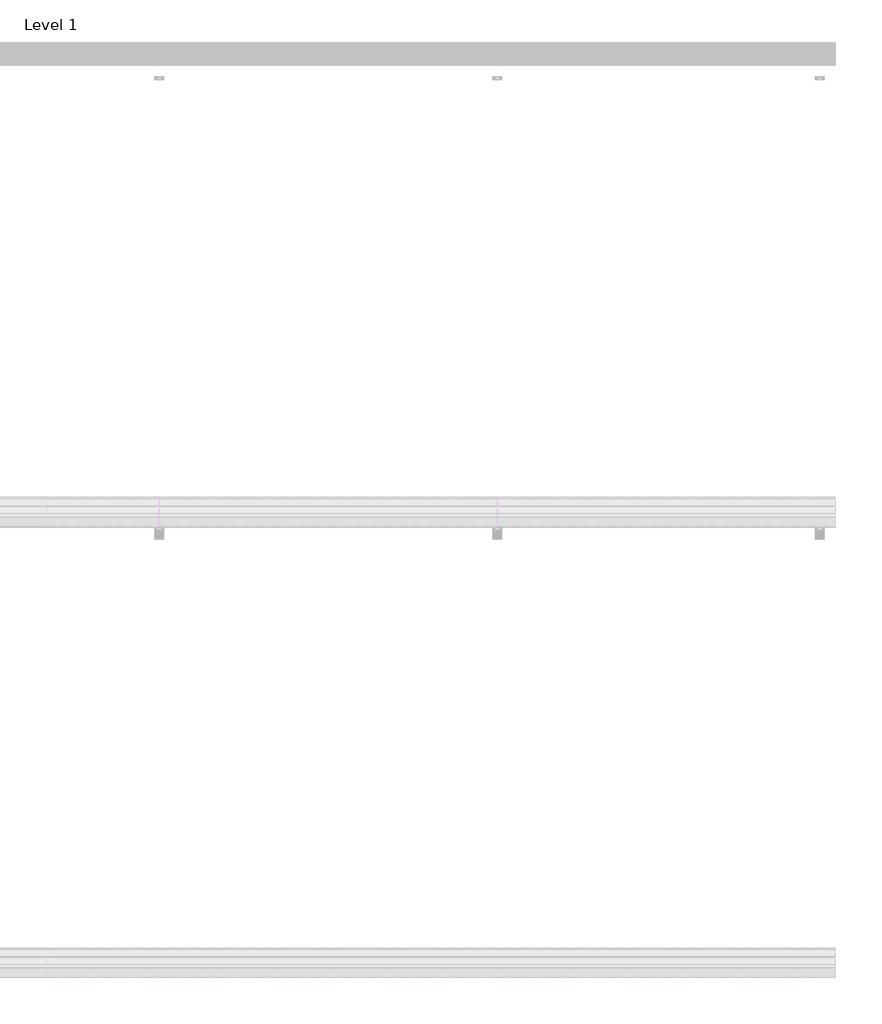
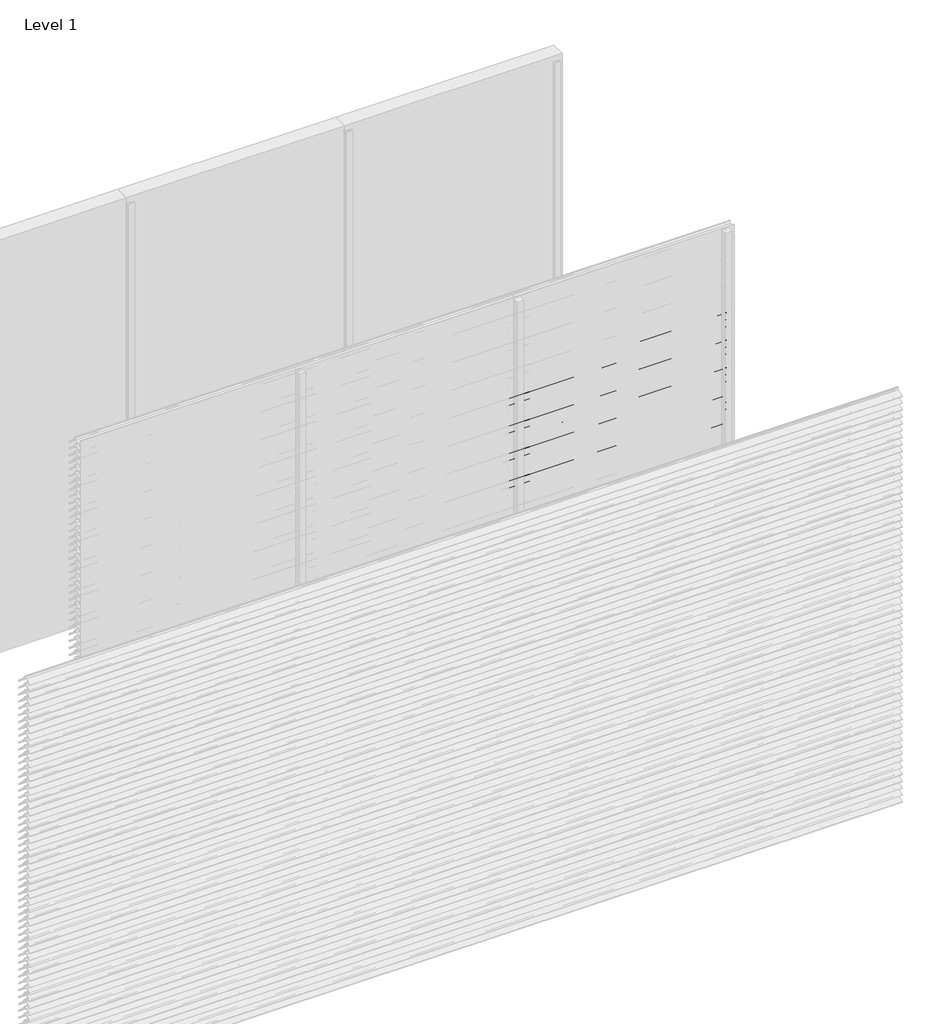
# One storey, part 86 of 173: 17 proxies.
"""IFC4 building model written with IfcOpenShell, lengths in millimetres."""

from ifc_helpers import new_model, si_unit, point, frame, frame_2d, origin, place, context, project, spatial, polyline, circle_curve, trimmed, segment, composite_curve, outline, extrude, element, save

model = new_model("IFC4")

# Units and contexts
model_context = context("Model", 3, world=origin())
ifc_project = project(units=[si_unit("LENGTHUNIT", "METRE", prefix="MILLI")], contexts=[model_context])

# Site, building, storey
site = spatial("IfcSite", under=ifc_project)
building = spatial("IfcBuilding", under=site)
storey = spatial("IfcBuildingStorey", under=building, Name="Level 1", Elevation=0.0)

# Proxies
placement = place(None, origin())
element("IfcBuildingElementProxy", 1, Name="Wall Sweeps", at=placement, inside=storey, context=model_context, shape_type="SweptSolid", body=[
    extrude(outline(composite_curve([segment(polyline([(-29998.0, 2309.1474905), (-29998.0, 2311.6227417)]), True, "CONTINUOUS"), segment(trimmed(circle_curve(frame_2d((-29951.2682172, 2266.2200208)), 65.1557103), [point((-29998.0, 2311.6227417))], [point((-29954.4014323, 2331.3003524))], False, "CARTESIAN"), True, "CONTINUOUS"), segment(polyline([(-29954.4014323, 2331.3003524), (-29934.8315836, 2331.3003524)]), True, "CONTINUOUS"), segment(trimmed(circle_curve(frame_2d((-29732.7329489, 2478.5533172)), 250.0545817), [point((-29934.8315836, 2331.3003524))], [point((-29941.4452143, 2340.8344583))], False, "CARTESIAN"), True, "CONTINUOUS"), segment(trimmed(circle_curve(frame_2d((-29953.2981792, 2335.1737835)), 13.1352966), [point((-29941.4452143, 2340.8344583))], [point((-29953.8171475, 2348.298824))], True, "CARTESIAN"), True, "CONTINUOUS"), segment(polyline([(-29953.8171475, 2348.298824), (-29953.8171475, 2350.0)]), True, "CONTINUOUS"), segment(trimmed(circle_curve(frame_2d((-29953.2981792, 2335.1737835)), 14.8352966), [point((-29953.8171475, 2350.0))], [point((-29939.9637661, 2341.6760487))], False, "CARTESIAN"), True, "CONTINUOUS"), segment(trimmed(circle_curve(frame_2d((-29732.7329489, 2478.5533172)), 248.3545817), [point((-29939.9637661, 2341.6760487))], [point((-29873.8787895, 2274.2059416))], True, "CARTESIAN"), True, "CONTINUOUS"), segment(trimmed(circle_curve(frame_2d((-29883.8147537, 2261.6649442)), 16.0), [point((-29873.8787895, 2274.2059416))], [point((-29867.8648347, 2260.4))], False, "CARTESIAN"), True, "CONTINUOUS"), segment(polyline([(-29867.8648347, 2260.4), (-29869.6712069, 2260.4)]), True, "CONTINUOUS"), segment(trimmed(circle_curve(frame_2d((-29883.8147537, 2261.6649442)), 14.2), [point((-29869.6712069, 2260.4))], [point((-29874.9518628, 2272.7594998))], True, "CARTESIAN"), True, "CONTINUOUS"), segment(trimmed(circle_curve(frame_2d((-29732.7329489, 2478.5533172)), 250.1545817), [point((-29874.9518628, 2272.7594998))], [point((-29933.7064024, 2329.6003524))], False, "CARTESIAN"), True, "CONTINUOUS"), segment(polyline([(-29933.7064024, 2329.6003524), (-29954.3602632, 2329.6003524)]), True, "CONTINUOUS"), segment(trimmed(circle_curve(frame_2d((-29951.2682172, 2266.2200208)), 63.4557103), [point((-29954.3602632, 2329.6003524))], [point((-29998.0, 2309.1474905))], True, "CARTESIAN"), True, "CONTINUOUS")], self_intersect=False)), frame((4500.0, 0.0, 0.0), z_axis=(1.0, 0.0, 0.0), x_axis=(0.0, 1.0, 0.0)), (0.0, 0.0, 1.0), 1500.0),
])
element("IfcBuildingElementProxy", 2, Name="Wall Sweeps", at=placement, inside=storey, context=model_context, shape_type="SweptSolid", body=[
    extrude(outline(composite_curve([segment(polyline([(-29998.0, 2259.1474905), (-29998.0, 2261.6227417)]), True, "CONTINUOUS"), segment(trimmed(circle_curve(frame_2d((-29951.2682172, 2216.2200208)), 65.1557103), [point((-29998.0, 2261.6227417))], [point((-29954.4014323, 2281.3003524))], False, "CARTESIAN"), True, "CONTINUOUS"), segment(polyline([(-29954.4014323, 2281.3003524), (-29934.8315836, 2281.3003524)]), True, "CONTINUOUS"), segment(trimmed(circle_curve(frame_2d((-29732.7329489, 2428.5533172)), 250.0545817), [point((-29934.8315836, 2281.3003524))], [point((-29941.4452143, 2290.8344583))], False, "CARTESIAN"), True, "CONTINUOUS"), segment(trimmed(circle_curve(frame_2d((-29953.2981792, 2285.1737835)), 13.1352966), [point((-29941.4452143, 2290.8344583))], [point((-29953.8171475, 2298.298824))], True, "CARTESIAN"), True, "CONTINUOUS"), segment(polyline([(-29953.8171475, 2298.298824), (-29953.8171475, 2300.0)]), True, "CONTINUOUS"), segment(trimmed(circle_curve(frame_2d((-29953.2981792, 2285.1737835)), 14.8352966), [point((-29953.8171475, 2300.0))], [point((-29939.9637661, 2291.6760487))], False, "CARTESIAN"), True, "CONTINUOUS"), segment(trimmed(circle_curve(frame_2d((-29732.7329489, 2428.5533172)), 248.3545817), [point((-29939.9637661, 2291.6760487))], [point((-29873.8787895, 2224.2059416))], True, "CARTESIAN"), True, "CONTINUOUS"), segment(trimmed(circle_curve(frame_2d((-29883.8147537, 2211.6649442)), 16.0), [point((-29873.8787895, 2224.2059416))], [point((-29867.8648347, 2210.4))], False, "CARTESIAN"), True, "CONTINUOUS"), segment(polyline([(-29867.8648347, 2210.4), (-29869.6712069, 2210.4)]), True, "CONTINUOUS"), segment(trimmed(circle_curve(frame_2d((-29883.8147537, 2211.6649442)), 14.2), [point((-29869.6712069, 2210.4))], [point((-29874.9518628, 2222.7594998))], True, "CARTESIAN"), True, "CONTINUOUS"), segment(trimmed(circle_curve(frame_2d((-29732.7329489, 2428.5533172)), 250.1545817), [point((-29874.9518628, 2222.7594998))], [point((-29933.7064024, 2279.6003524))], False, "CARTESIAN"), True, "CONTINUOUS"), segment(polyline([(-29933.7064024, 2279.6003524), (-29954.3602632, 2279.6003524)]), True, "CONTINUOUS"), segment(trimmed(circle_curve(frame_2d((-29951.2682172, 2216.2200208)), 63.4557103), [point((-29954.3602632, 2279.6003524))], [point((-29998.0, 2259.1474905))], True, "CARTESIAN"), True, "CONTINUOUS")], self_intersect=False)), frame((4500.0, 0.0, 0.0), z_axis=(1.0, 0.0, 0.0), x_axis=(0.0, 1.0, 0.0)), (0.0, 0.0, 1.0), 1500.0),
])
element("IfcBuildingElementProxy", 3, Name="Wall Sweeps", at=placement, inside=storey, context=model_context, shape_type="SweptSolid", body=[
    extrude(outline(composite_curve([segment(polyline([(-29998.0, 2209.1474905), (-29998.0, 2211.6227417)]), True, "CONTINUOUS"), segment(trimmed(circle_curve(frame_2d((-29951.2682172, 2166.2200208)), 65.1557103), [point((-29998.0, 2211.6227417))], [point((-29954.4014323, 2231.3003524))], False, "CARTESIAN"), True, "CONTINUOUS"), segment(polyline([(-29954.4014323, 2231.3003524), (-29934.8315836, 2231.3003524)]), True, "CONTINUOUS"), segment(trimmed(circle_curve(frame_2d((-29732.7329489, 2378.5533172)), 250.0545817), [point((-29934.8315836, 2231.3003524))], [point((-29941.4452143, 2240.8344583))], False, "CARTESIAN"), True, "CONTINUOUS"), segment(trimmed(circle_curve(frame_2d((-29953.2981792, 2235.1737835)), 13.1352966), [point((-29941.4452143, 2240.8344583))], [point((-29953.8171475, 2248.298824))], True, "CARTESIAN"), True, "CONTINUOUS"), segment(polyline([(-29953.8171475, 2248.298824), (-29953.8171475, 2250.0)]), True, "CONTINUOUS"), segment(trimmed(circle_curve(frame_2d((-29953.2981792, 2235.1737835)), 14.8352966), [point((-29953.8171475, 2250.0))], [point((-29939.9637661, 2241.6760487))], False, "CARTESIAN"), True, "CONTINUOUS"), segment(trimmed(circle_curve(frame_2d((-29732.7329489, 2378.5533172)), 248.3545817), [point((-29939.9637661, 2241.6760487))], [point((-29873.8787895, 2174.2059416))], True, "CARTESIAN"), True, "CONTINUOUS"), segment(trimmed(circle_curve(frame_2d((-29883.8147537, 2161.6649442)), 16.0), [point((-29873.8787895, 2174.2059416))], [point((-29867.8648347, 2160.4))], False, "CARTESIAN"), True, "CONTINUOUS"), segment(polyline([(-29867.8648347, 2160.4), (-29869.6712069, 2160.4)]), True, "CONTINUOUS"), segment(trimmed(circle_curve(frame_2d((-29883.8147537, 2161.6649442)), 14.2), [point((-29869.6712069, 2160.4))], [point((-29874.9518628, 2172.7594998))], True, "CARTESIAN"), True, "CONTINUOUS"), segment(trimmed(circle_curve(frame_2d((-29732.7329489, 2378.5533172)), 250.1545817), [point((-29874.9518628, 2172.7594998))], [point((-29933.7064024, 2229.6003524))], False, "CARTESIAN"), True, "CONTINUOUS"), segment(polyline([(-29933.7064024, 2229.6003524), (-29954.3602632, 2229.6003524)]), True, "CONTINUOUS"), segment(trimmed(circle_curve(frame_2d((-29951.2682172, 2166.2200208)), 63.4557103), [point((-29954.3602632, 2229.6003524))], [point((-29998.0, 2209.1474905))], True, "CARTESIAN"), True, "CONTINUOUS")], self_intersect=False)), frame((4500.0, 0.0, 0.0), z_axis=(1.0, 0.0, 0.0), x_axis=(0.0, 1.0, 0.0)), (0.0, 0.0, 1.0), 1500.0),
])
element("IfcBuildingElementProxy", 4, Name="Wall Sweeps", at=placement, inside=storey, context=model_context, shape_type="SweptSolid", body=[
    extrude(outline(composite_curve([segment(polyline([(-29998.0, 2159.1474905), (-29998.0, 2161.6227417)]), True, "CONTINUOUS"), segment(trimmed(circle_curve(frame_2d((-29951.2682172, 2116.2200208)), 65.1557103), [point((-29998.0, 2161.6227417))], [point((-29954.4014323, 2181.3003524))], False, "CARTESIAN"), True, "CONTINUOUS"), segment(polyline([(-29954.4014323, 2181.3003524), (-29934.8315836, 2181.3003524)]), True, "CONTINUOUS"), segment(trimmed(circle_curve(frame_2d((-29732.7329489, 2328.5533172)), 250.0545817), [point((-29934.8315836, 2181.3003524))], [point((-29941.4452143, 2190.8344583))], False, "CARTESIAN"), True, "CONTINUOUS"), segment(trimmed(circle_curve(frame_2d((-29953.2981792, 2185.1737835)), 13.1352966), [point((-29941.4452143, 2190.8344583))], [point((-29953.8171475, 2198.298824))], True, "CARTESIAN"), True, "CONTINUOUS"), segment(polyline([(-29953.8171475, 2198.298824), (-29953.8171475, 2200.0)]), True, "CONTINUOUS"), segment(trimmed(circle_curve(frame_2d((-29953.2981792, 2185.1737835)), 14.8352966), [point((-29953.8171475, 2200.0))], [point((-29939.9637661, 2191.6760487))], False, "CARTESIAN"), True, "CONTINUOUS"), segment(trimmed(circle_curve(frame_2d((-29732.7329489, 2328.5533172)), 248.3545817), [point((-29939.9637661, 2191.6760487))], [point((-29873.8787895, 2124.2059416))], True, "CARTESIAN"), True, "CONTINUOUS"), segment(trimmed(circle_curve(frame_2d((-29883.8147537, 2111.6649442)), 16.0), [point((-29873.8787895, 2124.2059416))], [point((-29867.8648347, 2110.4))], False, "CARTESIAN"), True, "CONTINUOUS"), segment(polyline([(-29867.8648347, 2110.4), (-29869.6712069, 2110.4)]), True, "CONTINUOUS"), segment(trimmed(circle_curve(frame_2d((-29883.8147537, 2111.6649442)), 14.2), [point((-29869.6712069, 2110.4))], [point((-29874.9518628, 2122.7594998))], True, "CARTESIAN"), True, "CONTINUOUS"), segment(trimmed(circle_curve(frame_2d((-29732.7329489, 2328.5533172)), 250.1545817), [point((-29874.9518628, 2122.7594998))], [point((-29933.7064024, 2179.6003524))], False, "CARTESIAN"), True, "CONTINUOUS"), segment(polyline([(-29933.7064024, 2179.6003524), (-29954.3602632, 2179.6003524)]), True, "CONTINUOUS"), segment(trimmed(circle_curve(frame_2d((-29951.2682172, 2116.2200208)), 63.4557103), [point((-29954.3602632, 2179.6003524))], [point((-29998.0, 2159.1474905))], True, "CARTESIAN"), True, "CONTINUOUS")], self_intersect=False)), frame((4500.0, 0.0, 0.0), z_axis=(1.0, 0.0, 0.0), x_axis=(0.0, 1.0, 0.0)), (0.0, 0.0, 1.0), 1500.0),
])
element("IfcBuildingElementProxy", 5, Name="Wall Sweeps", at=placement, inside=storey, context=model_context, shape_type="SweptSolid", body=[
    extrude(outline(composite_curve([segment(polyline([(-29998.0, 2109.1474905), (-29998.0, 2111.6227417)]), True, "CONTINUOUS"), segment(trimmed(circle_curve(frame_2d((-29951.2682172, 2066.2200208)), 65.1557103), [point((-29998.0, 2111.6227417))], [point((-29954.4014323, 2131.3003524))], False, "CARTESIAN"), True, "CONTINUOUS"), segment(polyline([(-29954.4014323, 2131.3003524), (-29934.8315836, 2131.3003524)]), True, "CONTINUOUS"), segment(trimmed(circle_curve(frame_2d((-29732.7329489, 2278.5533172)), 250.0545817), [point((-29934.8315836, 2131.3003524))], [point((-29941.4452143, 2140.8344583))], False, "CARTESIAN"), True, "CONTINUOUS"), segment(trimmed(circle_curve(frame_2d((-29953.2981792, 2135.1737835)), 13.1352966), [point((-29941.4452143, 2140.8344583))], [point((-29953.8171475, 2148.298824))], True, "CARTESIAN"), True, "CONTINUOUS"), segment(polyline([(-29953.8171475, 2148.298824), (-29953.8171475, 2150.0)]), True, "CONTINUOUS"), segment(trimmed(circle_curve(frame_2d((-29953.2981792, 2135.1737835)), 14.8352966), [point((-29953.8171475, 2150.0))], [point((-29939.9637661, 2141.6760487))], False, "CARTESIAN"), True, "CONTINUOUS"), segment(trimmed(circle_curve(frame_2d((-29732.7329489, 2278.5533172)), 248.3545817), [point((-29939.9637661, 2141.6760487))], [point((-29873.8787895, 2074.2059416))], True, "CARTESIAN"), True, "CONTINUOUS"), segment(trimmed(circle_curve(frame_2d((-29883.8147537, 2061.6649442)), 16.0), [point((-29873.8787895, 2074.2059416))], [point((-29867.8648347, 2060.4))], False, "CARTESIAN"), True, "CONTINUOUS"), segment(polyline([(-29867.8648347, 2060.4), (-29869.6712069, 2060.4)]), True, "CONTINUOUS"), segment(trimmed(circle_curve(frame_2d((-29883.8147537, 2061.6649442)), 14.2), [point((-29869.6712069, 2060.4))], [point((-29874.9518628, 2072.7594998))], True, "CARTESIAN"), True, "CONTINUOUS"), segment(trimmed(circle_curve(frame_2d((-29732.7329489, 2278.5533172)), 250.1545817), [point((-29874.9518628, 2072.7594998))], [point((-29933.7064024, 2129.6003524))], False, "CARTESIAN"), True, "CONTINUOUS"), segment(polyline([(-29933.7064024, 2129.6003524), (-29954.3602632, 2129.6003524)]), True, "CONTINUOUS"), segment(trimmed(circle_curve(frame_2d((-29951.2682172, 2066.2200208)), 63.4557103), [point((-29954.3602632, 2129.6003524))], [point((-29998.0, 2109.1474905))], True, "CARTESIAN"), True, "CONTINUOUS")], self_intersect=False)), frame((4500.0, 0.0, 0.0), z_axis=(1.0, 0.0, 0.0), x_axis=(0.0, 1.0, 0.0)), (0.0, 0.0, 1.0), 1500.0),
])
element("IfcBuildingElementProxy", 6, Name="Wall Sweeps", at=placement, inside=storey, context=model_context, shape_type="SweptSolid", body=[
    extrude(outline(composite_curve([segment(polyline([(-29998.0, 2059.1474905), (-29998.0, 2061.6227417)]), True, "CONTINUOUS"), segment(trimmed(circle_curve(frame_2d((-29951.2682172, 2016.2200208)), 65.1557103), [point((-29998.0, 2061.6227417))], [point((-29954.4014323, 2081.3003524))], False, "CARTESIAN"), True, "CONTINUOUS"), segment(polyline([(-29954.4014323, 2081.3003524), (-29934.8315836, 2081.3003524)]), True, "CONTINUOUS"), segment(trimmed(circle_curve(frame_2d((-29732.7329489, 2228.5533172)), 250.0545817), [point((-29934.8315836, 2081.3003524))], [point((-29941.4452143, 2090.8344583))], False, "CARTESIAN"), True, "CONTINUOUS"), segment(trimmed(circle_curve(frame_2d((-29953.2981792, 2085.1737835)), 13.1352966), [point((-29941.4452143, 2090.8344583))], [point((-29953.8171475, 2098.298824))], True, "CARTESIAN"), True, "CONTINUOUS"), segment(polyline([(-29953.8171475, 2098.298824), (-29953.8171475, 2100.0)]), True, "CONTINUOUS"), segment(trimmed(circle_curve(frame_2d((-29953.2981792, 2085.1737835)), 14.8352966), [point((-29953.8171475, 2100.0))], [point((-29939.9637661, 2091.6760487))], False, "CARTESIAN"), True, "CONTINUOUS"), segment(trimmed(circle_curve(frame_2d((-29732.7329489, 2228.5533172)), 248.3545817), [point((-29939.9637661, 2091.6760487))], [point((-29873.8787895, 2024.2059416))], True, "CARTESIAN"), True, "CONTINUOUS"), segment(trimmed(circle_curve(frame_2d((-29883.8147537, 2011.6649442)), 16.0), [point((-29873.8787895, 2024.2059416))], [point((-29867.8648347, 2010.4))], False, "CARTESIAN"), True, "CONTINUOUS"), segment(polyline([(-29867.8648347, 2010.4), (-29869.6712069, 2010.4)]), True, "CONTINUOUS"), segment(trimmed(circle_curve(frame_2d((-29883.8147537, 2011.6649442)), 14.2), [point((-29869.6712069, 2010.4))], [point((-29874.9518628, 2022.7594998))], True, "CARTESIAN"), True, "CONTINUOUS"), segment(trimmed(circle_curve(frame_2d((-29732.7329489, 2228.5533172)), 250.1545817), [point((-29874.9518628, 2022.7594998))], [point((-29933.7064024, 2079.6003524))], False, "CARTESIAN"), True, "CONTINUOUS"), segment(polyline([(-29933.7064024, 2079.6003524), (-29954.3602632, 2079.6003524)]), True, "CONTINUOUS"), segment(trimmed(circle_curve(frame_2d((-29951.2682172, 2016.2200208)), 63.4557103), [point((-29954.3602632, 2079.6003524))], [point((-29998.0, 2059.1474905))], True, "CARTESIAN"), True, "CONTINUOUS")], self_intersect=False)), frame((4500.0, 0.0, 0.0), z_axis=(1.0, 0.0, 0.0), x_axis=(0.0, 1.0, 0.0)), (0.0, 0.0, 1.0), 1500.0),
])
element("IfcBuildingElementProxy", 7, Name="Wall Sweeps", at=placement, inside=storey, context=model_context, shape_type="SweptSolid", body=[
    extrude(outline(composite_curve([segment(polyline([(-29998.0, 2009.1474905), (-29998.0, 2011.6227417)]), True, "CONTINUOUS"), segment(trimmed(circle_curve(frame_2d((-29951.2682172, 1966.2200208)), 65.1557103), [point((-29998.0, 2011.6227417))], [point((-29954.4014323, 2031.3003524))], False, "CARTESIAN"), True, "CONTINUOUS"), segment(polyline([(-29954.4014323, 2031.3003524), (-29934.8315836, 2031.3003524)]), True, "CONTINUOUS"), segment(trimmed(circle_curve(frame_2d((-29732.7329489, 2178.5533172)), 250.0545817), [point((-29934.8315836, 2031.3003524))], [point((-29941.4452143, 2040.8344583))], False, "CARTESIAN"), True, "CONTINUOUS"), segment(trimmed(circle_curve(frame_2d((-29953.2981792, 2035.1737835)), 13.1352966), [point((-29941.4452143, 2040.8344583))], [point((-29953.8171475, 2048.298824))], True, "CARTESIAN"), True, "CONTINUOUS"), segment(polyline([(-29953.8171475, 2048.298824), (-29953.8171475, 2050.0)]), True, "CONTINUOUS"), segment(trimmed(circle_curve(frame_2d((-29953.2981792, 2035.1737835)), 14.8352966), [point((-29953.8171475, 2050.0))], [point((-29939.9637661, 2041.6760487))], False, "CARTESIAN"), True, "CONTINUOUS"), segment(trimmed(circle_curve(frame_2d((-29732.7329489, 2178.5533172)), 248.3545817), [point((-29939.9637661, 2041.6760487))], [point((-29873.8787895, 1974.2059416))], True, "CARTESIAN"), True, "CONTINUOUS"), segment(trimmed(circle_curve(frame_2d((-29883.8147537, 1961.6649442)), 16.0), [point((-29873.8787895, 1974.2059416))], [point((-29867.8648347, 1960.4))], False, "CARTESIAN"), True, "CONTINUOUS"), segment(polyline([(-29867.8648347, 1960.4), (-29869.6712069, 1960.4)]), True, "CONTINUOUS"), segment(trimmed(circle_curve(frame_2d((-29883.8147537, 1961.6649442)), 14.2), [point((-29869.6712069, 1960.4))], [point((-29874.9518628, 1972.7594998))], True, "CARTESIAN"), True, "CONTINUOUS"), segment(trimmed(circle_curve(frame_2d((-29732.7329489, 2178.5533172)), 250.1545817), [point((-29874.9518628, 1972.7594998))], [point((-29933.7064024, 2029.6003524))], False, "CARTESIAN"), True, "CONTINUOUS"), segment(polyline([(-29933.7064024, 2029.6003524), (-29954.3602632, 2029.6003524)]), True, "CONTINUOUS"), segment(trimmed(circle_curve(frame_2d((-29951.2682172, 1966.2200208)), 63.4557103), [point((-29954.3602632, 2029.6003524))], [point((-29998.0, 2009.1474905))], True, "CARTESIAN"), True, "CONTINUOUS")], self_intersect=False)), frame((4500.0, 0.0, 0.0), z_axis=(1.0, 0.0, 0.0), x_axis=(0.0, 1.0, 0.0)), (0.0, 0.0, 1.0), 1500.0),
])
element("IfcBuildingElementProxy", 8, Name="Wall Sweeps", at=placement, inside=storey, context=model_context, shape_type="SweptSolid", body=[
    extrude(outline(composite_curve([segment(polyline([(-29998.0, 1959.1474905), (-29998.0, 1961.6227417)]), True, "CONTINUOUS"), segment(trimmed(circle_curve(frame_2d((-29951.2682172, 1916.2200208)), 65.1557103), [point((-29998.0, 1961.6227417))], [point((-29954.4014323, 1981.3003524))], False, "CARTESIAN"), True, "CONTINUOUS"), segment(polyline([(-29954.4014323, 1981.3003524), (-29934.8315836, 1981.3003524)]), True, "CONTINUOUS"), segment(trimmed(circle_curve(frame_2d((-29732.7329489, 2128.5533172)), 250.0545817), [point((-29934.8315836, 1981.3003524))], [point((-29941.4452143, 1990.8344583))], False, "CARTESIAN"), True, "CONTINUOUS"), segment(trimmed(circle_curve(frame_2d((-29953.2981792, 1985.1737835)), 13.1352966), [point((-29941.4452143, 1990.8344583))], [point((-29953.8171475, 1998.298824))], True, "CARTESIAN"), True, "CONTINUOUS"), segment(polyline([(-29953.8171475, 1998.298824), (-29953.8171475, 2000.0)]), True, "CONTINUOUS"), segment(trimmed(circle_curve(frame_2d((-29953.2981792, 1985.1737835)), 14.8352966), [point((-29953.8171475, 2000.0))], [point((-29939.9637661, 1991.6760487))], False, "CARTESIAN"), True, "CONTINUOUS"), segment(trimmed(circle_curve(frame_2d((-29732.7329489, 2128.5533172)), 248.3545817), [point((-29939.9637661, 1991.6760487))], [point((-29873.8787895, 1924.2059416))], True, "CARTESIAN"), True, "CONTINUOUS"), segment(trimmed(circle_curve(frame_2d((-29883.8147537, 1911.6649442)), 16.0), [point((-29873.8787895, 1924.2059416))], [point((-29867.8648347, 1910.4))], False, "CARTESIAN"), True, "CONTINUOUS"), segment(polyline([(-29867.8648347, 1910.4), (-29869.6712069, 1910.4)]), True, "CONTINUOUS"), segment(trimmed(circle_curve(frame_2d((-29883.8147537, 1911.6649442)), 14.2), [point((-29869.6712069, 1910.4))], [point((-29874.9518628, 1922.7594998))], True, "CARTESIAN"), True, "CONTINUOUS"), segment(trimmed(circle_curve(frame_2d((-29732.7329489, 2128.5533172)), 250.1545817), [point((-29874.9518628, 1922.7594998))], [point((-29933.7064024, 1979.6003524))], False, "CARTESIAN"), True, "CONTINUOUS"), segment(polyline([(-29933.7064024, 1979.6003524), (-29954.3602632, 1979.6003524)]), True, "CONTINUOUS"), segment(trimmed(circle_curve(frame_2d((-29951.2682172, 1916.2200208)), 63.4557103), [point((-29954.3602632, 1979.6003524))], [point((-29998.0, 1959.1474905))], True, "CARTESIAN"), True, "CONTINUOUS")], self_intersect=False)), frame((4500.0, 0.0, 0.0), z_axis=(1.0, 0.0, 0.0), x_axis=(0.0, 1.0, 0.0)), (0.0, 0.0, 1.0), 1500.0),
])
element("IfcBuildingElementProxy", 9, Name="Wall Sweeps", at=placement, inside=storey, context=model_context, shape_type="SweptSolid", body=[
    extrude(outline(composite_curve([segment(polyline([(-29998.0, 1909.1474905), (-29998.0, 1911.6227417)]), True, "CONTINUOUS"), segment(trimmed(circle_curve(frame_2d((-29951.2682172, 1866.2200208)), 65.1557103), [point((-29998.0, 1911.6227417))], [point((-29954.4014323, 1931.3003524))], False, "CARTESIAN"), True, "CONTINUOUS"), segment(polyline([(-29954.4014323, 1931.3003524), (-29934.8315836, 1931.3003524)]), True, "CONTINUOUS"), segment(trimmed(circle_curve(frame_2d((-29732.7329489, 2078.5533172)), 250.0545817), [point((-29934.8315836, 1931.3003524))], [point((-29941.4452143, 1940.8344583))], False, "CARTESIAN"), True, "CONTINUOUS"), segment(trimmed(circle_curve(frame_2d((-29953.2981792, 1935.1737835)), 13.1352966), [point((-29941.4452143, 1940.8344583))], [point((-29953.8171475, 1948.298824))], True, "CARTESIAN"), True, "CONTINUOUS"), segment(polyline([(-29953.8171475, 1948.298824), (-29953.8171475, 1950.0)]), True, "CONTINUOUS"), segment(trimmed(circle_curve(frame_2d((-29953.2981792, 1935.1737835)), 14.8352966), [point((-29953.8171475, 1950.0))], [point((-29939.9637661, 1941.6760487))], False, "CARTESIAN"), True, "CONTINUOUS"), segment(trimmed(circle_curve(frame_2d((-29732.7329489, 2078.5533172)), 248.3545817), [point((-29939.9637661, 1941.6760487))], [point((-29873.8787895, 1874.2059416))], True, "CARTESIAN"), True, "CONTINUOUS"), segment(trimmed(circle_curve(frame_2d((-29883.8147537, 1861.6649442)), 16.0), [point((-29873.8787895, 1874.2059416))], [point((-29867.8648347, 1860.4))], False, "CARTESIAN"), True, "CONTINUOUS"), segment(polyline([(-29867.8648347, 1860.4), (-29869.6712069, 1860.4)]), True, "CONTINUOUS"), segment(trimmed(circle_curve(frame_2d((-29883.8147537, 1861.6649442)), 14.2), [point((-29869.6712069, 1860.4))], [point((-29874.9518628, 1872.7594998))], True, "CARTESIAN"), True, "CONTINUOUS"), segment(trimmed(circle_curve(frame_2d((-29732.7329489, 2078.5533172)), 250.1545817), [point((-29874.9518628, 1872.7594998))], [point((-29933.7064024, 1929.6003524))], False, "CARTESIAN"), True, "CONTINUOUS"), segment(polyline([(-29933.7064024, 1929.6003524), (-29954.3602632, 1929.6003524)]), True, "CONTINUOUS"), segment(trimmed(circle_curve(frame_2d((-29951.2682172, 1866.2200208)), 63.4557103), [point((-29954.3602632, 1929.6003524))], [point((-29998.0, 1909.1474905))], True, "CARTESIAN"), True, "CONTINUOUS")], self_intersect=False)), frame((4500.0, 0.0, 0.0), z_axis=(1.0, 0.0, 0.0), x_axis=(0.0, 1.0, 0.0)), (0.0, 0.0, 1.0), 1500.0),
])
element("IfcBuildingElementProxy", 10, Name="Wall Sweeps", at=placement, inside=storey, context=model_context, shape_type="SweptSolid", body=[
    extrude(outline(composite_curve([segment(polyline([(-29998.0, 1859.1474905), (-29998.0, 1861.6227417)]), True, "CONTINUOUS"), segment(trimmed(circle_curve(frame_2d((-29951.2682172, 1816.2200208)), 65.1557103), [point((-29998.0, 1861.6227417))], [point((-29954.4014323, 1881.3003524))], False, "CARTESIAN"), True, "CONTINUOUS"), segment(polyline([(-29954.4014323, 1881.3003524), (-29934.8315836, 1881.3003524)]), True, "CONTINUOUS"), segment(trimmed(circle_curve(frame_2d((-29732.7329489, 2028.5533172)), 250.0545817), [point((-29934.8315836, 1881.3003524))], [point((-29941.4452143, 1890.8344583))], False, "CARTESIAN"), True, "CONTINUOUS"), segment(trimmed(circle_curve(frame_2d((-29953.2981792, 1885.1737835)), 13.1352966), [point((-29941.4452143, 1890.8344583))], [point((-29953.8171475, 1898.298824))], True, "CARTESIAN"), True, "CONTINUOUS"), segment(polyline([(-29953.8171475, 1898.298824), (-29953.8171475, 1900.0)]), True, "CONTINUOUS"), segment(trimmed(circle_curve(frame_2d((-29953.2981792, 1885.1737835)), 14.8352966), [point((-29953.8171475, 1900.0))], [point((-29939.9637661, 1891.6760487))], False, "CARTESIAN"), True, "CONTINUOUS"), segment(trimmed(circle_curve(frame_2d((-29732.7329489, 2028.5533172)), 248.3545817), [point((-29939.9637661, 1891.6760487))], [point((-29873.8787895, 1824.2059416))], True, "CARTESIAN"), True, "CONTINUOUS"), segment(trimmed(circle_curve(frame_2d((-29883.8147537, 1811.6649442)), 16.0), [point((-29873.8787895, 1824.2059416))], [point((-29867.8648347, 1810.4))], False, "CARTESIAN"), True, "CONTINUOUS"), segment(polyline([(-29867.8648347, 1810.4), (-29869.6712069, 1810.4)]), True, "CONTINUOUS"), segment(trimmed(circle_curve(frame_2d((-29883.8147537, 1811.6649442)), 14.2), [point((-29869.6712069, 1810.4))], [point((-29874.9518628, 1822.7594998))], True, "CARTESIAN"), True, "CONTINUOUS"), segment(trimmed(circle_curve(frame_2d((-29732.7329489, 2028.5533172)), 250.1545817), [point((-29874.9518628, 1822.7594998))], [point((-29933.7064024, 1879.6003524))], False, "CARTESIAN"), True, "CONTINUOUS"), segment(polyline([(-29933.7064024, 1879.6003524), (-29954.3602632, 1879.6003524)]), True, "CONTINUOUS"), segment(trimmed(circle_curve(frame_2d((-29951.2682172, 1816.2200208)), 63.4557103), [point((-29954.3602632, 1879.6003524))], [point((-29998.0, 1859.1474905))], True, "CARTESIAN"), True, "CONTINUOUS")], self_intersect=False)), frame((4500.0, 0.0, 0.0), z_axis=(1.0, 0.0, 0.0), x_axis=(0.0, 1.0, 0.0)), (0.0, 0.0, 1.0), 1500.0),
])
element("IfcBuildingElementProxy", 11, Name="Wall Sweeps", at=placement, inside=storey, context=model_context, shape_type="SweptSolid", body=[
    extrude(outline(composite_curve([segment(polyline([(-29998.0, 1809.1474905), (-29998.0, 1811.6227417)]), True, "CONTINUOUS"), segment(trimmed(circle_curve(frame_2d((-29951.2682172, 1766.2200208)), 65.1557103), [point((-29998.0, 1811.6227417))], [point((-29954.4014323, 1831.3003524))], False, "CARTESIAN"), True, "CONTINUOUS"), segment(polyline([(-29954.4014323, 1831.3003524), (-29934.8315836, 1831.3003524)]), True, "CONTINUOUS"), segment(trimmed(circle_curve(frame_2d((-29732.7329489, 1978.5533172)), 250.0545817), [point((-29934.8315836, 1831.3003524))], [point((-29941.4452143, 1840.8344583))], False, "CARTESIAN"), True, "CONTINUOUS"), segment(trimmed(circle_curve(frame_2d((-29953.2981792, 1835.1737835)), 13.1352966), [point((-29941.4452143, 1840.8344583))], [point((-29953.8171475, 1848.298824))], True, "CARTESIAN"), True, "CONTINUOUS"), segment(polyline([(-29953.8171475, 1848.298824), (-29953.8171475, 1850.0)]), True, "CONTINUOUS"), segment(trimmed(circle_curve(frame_2d((-29953.2981792, 1835.1737835)), 14.8352966), [point((-29953.8171475, 1850.0))], [point((-29939.9637661, 1841.6760487))], False, "CARTESIAN"), True, "CONTINUOUS"), segment(trimmed(circle_curve(frame_2d((-29732.7329489, 1978.5533172)), 248.3545817), [point((-29939.9637661, 1841.6760487))], [point((-29873.8787895, 1774.2059416))], True, "CARTESIAN"), True, "CONTINUOUS"), segment(trimmed(circle_curve(frame_2d((-29883.8147537, 1761.6649442)), 16.0), [point((-29873.8787895, 1774.2059416))], [point((-29867.8648347, 1760.4))], False, "CARTESIAN"), True, "CONTINUOUS"), segment(polyline([(-29867.8648347, 1760.4), (-29869.6712069, 1760.4)]), True, "CONTINUOUS"), segment(trimmed(circle_curve(frame_2d((-29883.8147537, 1761.6649442)), 14.2), [point((-29869.6712069, 1760.4))], [point((-29874.9518628, 1772.7594998))], True, "CARTESIAN"), True, "CONTINUOUS"), segment(trimmed(circle_curve(frame_2d((-29732.7329489, 1978.5533172)), 250.1545817), [point((-29874.9518628, 1772.7594998))], [point((-29933.7064024, 1829.6003524))], False, "CARTESIAN"), True, "CONTINUOUS"), segment(polyline([(-29933.7064024, 1829.6003524), (-29954.3602632, 1829.6003524)]), True, "CONTINUOUS"), segment(trimmed(circle_curve(frame_2d((-29951.2682172, 1766.2200208)), 63.4557103), [point((-29954.3602632, 1829.6003524))], [point((-29998.0, 1809.1474905))], True, "CARTESIAN"), True, "CONTINUOUS")], self_intersect=False)), frame((4500.0, 0.0, 0.0), z_axis=(1.0, 0.0, 0.0), x_axis=(0.0, 1.0, 0.0)), (0.0, 0.0, 1.0), 1500.0),
])
element("IfcBuildingElementProxy", 12, Name="Wall Sweeps", at=placement, inside=storey, context=model_context, shape_type="SweptSolid", body=[
    extrude(outline(composite_curve([segment(polyline([(-29998.0, 1759.1474905), (-29998.0, 1761.6227417)]), True, "CONTINUOUS"), segment(trimmed(circle_curve(frame_2d((-29951.2682172, 1716.2200208)), 65.1557103), [point((-29998.0, 1761.6227417))], [point((-29954.4014323, 1781.3003524))], False, "CARTESIAN"), True, "CONTINUOUS"), segment(polyline([(-29954.4014323, 1781.3003524), (-29934.8315836, 1781.3003524)]), True, "CONTINUOUS"), segment(trimmed(circle_curve(frame_2d((-29732.7329489, 1928.5533172)), 250.0545817), [point((-29934.8315836, 1781.3003524))], [point((-29941.4452143, 1790.8344583))], False, "CARTESIAN"), True, "CONTINUOUS"), segment(trimmed(circle_curve(frame_2d((-29953.2981792, 1785.1737835)), 13.1352966), [point((-29941.4452143, 1790.8344583))], [point((-29953.8171475, 1798.298824))], True, "CARTESIAN"), True, "CONTINUOUS"), segment(polyline([(-29953.8171475, 1798.298824), (-29953.8171475, 1800.0)]), True, "CONTINUOUS"), segment(trimmed(circle_curve(frame_2d((-29953.2981792, 1785.1737835)), 14.8352966), [point((-29953.8171475, 1800.0))], [point((-29939.9637661, 1791.6760487))], False, "CARTESIAN"), True, "CONTINUOUS"), segment(trimmed(circle_curve(frame_2d((-29732.7329489, 1928.5533172)), 248.3545817), [point((-29939.9637661, 1791.6760487))], [point((-29873.8787895, 1724.2059416))], True, "CARTESIAN"), True, "CONTINUOUS"), segment(trimmed(circle_curve(frame_2d((-29883.8147537, 1711.6649442)), 16.0), [point((-29873.8787895, 1724.2059416))], [point((-29867.8648347, 1710.4))], False, "CARTESIAN"), True, "CONTINUOUS"), segment(polyline([(-29867.8648347, 1710.4), (-29869.6712069, 1710.4)]), True, "CONTINUOUS"), segment(trimmed(circle_curve(frame_2d((-29883.8147537, 1711.6649442)), 14.2), [point((-29869.6712069, 1710.4))], [point((-29874.9518628, 1722.7594998))], True, "CARTESIAN"), True, "CONTINUOUS"), segment(trimmed(circle_curve(frame_2d((-29732.7329489, 1928.5533172)), 250.1545817), [point((-29874.9518628, 1722.7594998))], [point((-29933.7064024, 1779.6003524))], False, "CARTESIAN"), True, "CONTINUOUS"), segment(polyline([(-29933.7064024, 1779.6003524), (-29954.3602632, 1779.6003524)]), True, "CONTINUOUS"), segment(trimmed(circle_curve(frame_2d((-29951.2682172, 1716.2200208)), 63.4557103), [point((-29954.3602632, 1779.6003524))], [point((-29998.0, 1759.1474905))], True, "CARTESIAN"), True, "CONTINUOUS")], self_intersect=False)), frame((4500.0, 0.0, 0.0), z_axis=(1.0, 0.0, 0.0), x_axis=(0.0, 1.0, 0.0)), (0.0, 0.0, 1.0), 1500.0),
])
element("IfcBuildingElementProxy", 13, Name="Wall Sweeps", at=placement, inside=storey, context=model_context, shape_type="SweptSolid", body=[
    extrude(outline(composite_curve([segment(polyline([(-29998.0, 1709.1474905), (-29998.0, 1711.6227417)]), True, "CONTINUOUS"), segment(trimmed(circle_curve(frame_2d((-29951.2682172, 1666.2200208)), 65.1557103), [point((-29998.0, 1711.6227417))], [point((-29954.4014323, 1731.3003524))], False, "CARTESIAN"), True, "CONTINUOUS"), segment(polyline([(-29954.4014323, 1731.3003524), (-29934.8315836, 1731.3003524)]), True, "CONTINUOUS"), segment(trimmed(circle_curve(frame_2d((-29732.7329489, 1878.5533172)), 250.0545817), [point((-29934.8315836, 1731.3003524))], [point((-29941.4452143, 1740.8344583))], False, "CARTESIAN"), True, "CONTINUOUS"), segment(trimmed(circle_curve(frame_2d((-29953.2981792, 1735.1737835)), 13.1352966), [point((-29941.4452143, 1740.8344583))], [point((-29953.8171475, 1748.298824))], True, "CARTESIAN"), True, "CONTINUOUS"), segment(polyline([(-29953.8171475, 1748.298824), (-29953.8171475, 1750.0)]), True, "CONTINUOUS"), segment(trimmed(circle_curve(frame_2d((-29953.2981792, 1735.1737835)), 14.8352966), [point((-29953.8171475, 1750.0))], [point((-29939.9637661, 1741.6760487))], False, "CARTESIAN"), True, "CONTINUOUS"), segment(trimmed(circle_curve(frame_2d((-29732.7329489, 1878.5533172)), 248.3545817), [point((-29939.9637661, 1741.6760487))], [point((-29873.8787895, 1674.2059416))], True, "CARTESIAN"), True, "CONTINUOUS"), segment(trimmed(circle_curve(frame_2d((-29883.8147537, 1661.6649442)), 16.0), [point((-29873.8787895, 1674.2059416))], [point((-29867.8648347, 1660.4))], False, "CARTESIAN"), True, "CONTINUOUS"), segment(polyline([(-29867.8648347, 1660.4), (-29869.6712069, 1660.4)]), True, "CONTINUOUS"), segment(trimmed(circle_curve(frame_2d((-29883.8147537, 1661.6649442)), 14.2), [point((-29869.6712069, 1660.4))], [point((-29874.9518628, 1672.7594998))], True, "CARTESIAN"), True, "CONTINUOUS"), segment(trimmed(circle_curve(frame_2d((-29732.7329489, 1878.5533172)), 250.1545817), [point((-29874.9518628, 1672.7594998))], [point((-29933.7064024, 1729.6003524))], False, "CARTESIAN"), True, "CONTINUOUS"), segment(polyline([(-29933.7064024, 1729.6003524), (-29954.3602632, 1729.6003524)]), True, "CONTINUOUS"), segment(trimmed(circle_curve(frame_2d((-29951.2682172, 1666.2200208)), 63.4557103), [point((-29954.3602632, 1729.6003524))], [point((-29998.0, 1709.1474905))], True, "CARTESIAN"), True, "CONTINUOUS")], self_intersect=False)), frame((4500.0, 0.0, 0.0), z_axis=(1.0, 0.0, 0.0), x_axis=(0.0, 1.0, 0.0)), (0.0, 0.0, 1.0), 1500.0),
])
element("IfcBuildingElementProxy", 14, Name="Wall Sweeps", at=placement, inside=storey, context=model_context, shape_type="SweptSolid", body=[
    extrude(outline(composite_curve([segment(polyline([(-29998.0, 1659.1474905), (-29998.0, 1661.6227417)]), True, "CONTINUOUS"), segment(trimmed(circle_curve(frame_2d((-29951.2682172, 1616.2200208)), 65.1557103), [point((-29998.0, 1661.6227417))], [point((-29954.4014323, 1681.3003524))], False, "CARTESIAN"), True, "CONTINUOUS"), segment(polyline([(-29954.4014323, 1681.3003524), (-29934.8315836, 1681.3003524)]), True, "CONTINUOUS"), segment(trimmed(circle_curve(frame_2d((-29732.7329489, 1828.5533172)), 250.0545817), [point((-29934.8315836, 1681.3003524))], [point((-29941.4452143, 1690.8344583))], False, "CARTESIAN"), True, "CONTINUOUS"), segment(trimmed(circle_curve(frame_2d((-29953.2981792, 1685.1737835)), 13.1352966), [point((-29941.4452143, 1690.8344583))], [point((-29953.8171475, 1698.298824))], True, "CARTESIAN"), True, "CONTINUOUS"), segment(polyline([(-29953.8171475, 1698.298824), (-29953.8171475, 1700.0)]), True, "CONTINUOUS"), segment(trimmed(circle_curve(frame_2d((-29953.2981792, 1685.1737835)), 14.8352966), [point((-29953.8171475, 1700.0))], [point((-29939.9637661, 1691.6760487))], False, "CARTESIAN"), True, "CONTINUOUS"), segment(trimmed(circle_curve(frame_2d((-29732.7329489, 1828.5533172)), 248.3545817), [point((-29939.9637661, 1691.6760487))], [point((-29873.8787895, 1624.2059416))], True, "CARTESIAN"), True, "CONTINUOUS"), segment(trimmed(circle_curve(frame_2d((-29883.8147537, 1611.6649442)), 16.0), [point((-29873.8787895, 1624.2059416))], [point((-29867.8648347, 1610.4))], False, "CARTESIAN"), True, "CONTINUOUS"), segment(polyline([(-29867.8648347, 1610.4), (-29869.6712069, 1610.4)]), True, "CONTINUOUS"), segment(trimmed(circle_curve(frame_2d((-29883.8147537, 1611.6649442)), 14.2), [point((-29869.6712069, 1610.4))], [point((-29874.9518628, 1622.7594998))], True, "CARTESIAN"), True, "CONTINUOUS"), segment(trimmed(circle_curve(frame_2d((-29732.7329489, 1828.5533172)), 250.1545817), [point((-29874.9518628, 1622.7594998))], [point((-29933.7064024, 1679.6003524))], False, "CARTESIAN"), True, "CONTINUOUS"), segment(polyline([(-29933.7064024, 1679.6003524), (-29954.3602632, 1679.6003524)]), True, "CONTINUOUS"), segment(trimmed(circle_curve(frame_2d((-29951.2682172, 1616.2200208)), 63.4557103), [point((-29954.3602632, 1679.6003524))], [point((-29998.0, 1659.1474905))], True, "CARTESIAN"), True, "CONTINUOUS")], self_intersect=False)), frame((4500.0, 0.0, 0.0), z_axis=(1.0, 0.0, 0.0), x_axis=(0.0, 1.0, 0.0)), (0.0, 0.0, 1.0), 1500.0),
])
element("IfcBuildingElementProxy", 15, Name="Wall Sweeps", at=placement, inside=storey, context=model_context, shape_type="SweptSolid", body=[
    extrude(outline(composite_curve([segment(polyline([(-29998.0, 1609.1474905), (-29998.0, 1611.6227417)]), True, "CONTINUOUS"), segment(trimmed(circle_curve(frame_2d((-29951.2682172, 1566.2200208)), 65.1557103), [point((-29998.0, 1611.6227417))], [point((-29954.4014323, 1631.3003524))], False, "CARTESIAN"), True, "CONTINUOUS"), segment(polyline([(-29954.4014323, 1631.3003524), (-29934.8315836, 1631.3003524)]), True, "CONTINUOUS"), segment(trimmed(circle_curve(frame_2d((-29732.7329489, 1778.5533172)), 250.0545817), [point((-29934.8315836, 1631.3003524))], [point((-29941.4452143, 1640.8344583))], False, "CARTESIAN"), True, "CONTINUOUS"), segment(trimmed(circle_curve(frame_2d((-29953.2981792, 1635.1737835)), 13.1352966), [point((-29941.4452143, 1640.8344583))], [point((-29953.8171475, 1648.298824))], True, "CARTESIAN"), True, "CONTINUOUS"), segment(polyline([(-29953.8171475, 1648.298824), (-29953.8171475, 1650.0)]), True, "CONTINUOUS"), segment(trimmed(circle_curve(frame_2d((-29953.2981792, 1635.1737835)), 14.8352966), [point((-29953.8171475, 1650.0))], [point((-29939.9637661, 1641.6760487))], False, "CARTESIAN"), True, "CONTINUOUS"), segment(trimmed(circle_curve(frame_2d((-29732.7329489, 1778.5533172)), 248.3545817), [point((-29939.9637661, 1641.6760487))], [point((-29873.8787895, 1574.2059416))], True, "CARTESIAN"), True, "CONTINUOUS"), segment(trimmed(circle_curve(frame_2d((-29883.8147537, 1561.6649442)), 16.0), [point((-29873.8787895, 1574.2059416))], [point((-29867.8648347, 1560.4))], False, "CARTESIAN"), True, "CONTINUOUS"), segment(polyline([(-29867.8648347, 1560.4), (-29869.6712069, 1560.4)]), True, "CONTINUOUS"), segment(trimmed(circle_curve(frame_2d((-29883.8147537, 1561.6649442)), 14.2), [point((-29869.6712069, 1560.4))], [point((-29874.9518628, 1572.7594998))], True, "CARTESIAN"), True, "CONTINUOUS"), segment(trimmed(circle_curve(frame_2d((-29732.7329489, 1778.5533172)), 250.1545817), [point((-29874.9518628, 1572.7594998))], [point((-29933.7064024, 1629.6003524))], False, "CARTESIAN"), True, "CONTINUOUS"), segment(polyline([(-29933.7064024, 1629.6003524), (-29954.3602632, 1629.6003524)]), True, "CONTINUOUS"), segment(trimmed(circle_curve(frame_2d((-29951.2682172, 1566.2200208)), 63.4557103), [point((-29954.3602632, 1629.6003524))], [point((-29998.0, 1609.1474905))], True, "CARTESIAN"), True, "CONTINUOUS")], self_intersect=False)), frame((4500.0, 0.0, 0.0), z_axis=(1.0, 0.0, 0.0), x_axis=(0.0, 1.0, 0.0)), (0.0, 0.0, 1.0), 1500.0),
])
element("IfcBuildingElementProxy", 16, Name="Wall Sweeps", at=placement, inside=storey, context=model_context, shape_type="SweptSolid", body=[
    extrude(outline(composite_curve([segment(polyline([(-29998.0, 1559.1474905), (-29998.0, 1561.6227417)]), True, "CONTINUOUS"), segment(trimmed(circle_curve(frame_2d((-29951.2682172, 1516.2200208)), 65.1557103), [point((-29998.0, 1561.6227417))], [point((-29954.4014323, 1581.3003524))], False, "CARTESIAN"), True, "CONTINUOUS"), segment(polyline([(-29954.4014323, 1581.3003524), (-29934.8315836, 1581.3003524)]), True, "CONTINUOUS"), segment(trimmed(circle_curve(frame_2d((-29732.7329489, 1728.5533172)), 250.0545817), [point((-29934.8315836, 1581.3003524))], [point((-29941.4452143, 1590.8344583))], False, "CARTESIAN"), True, "CONTINUOUS"), segment(trimmed(circle_curve(frame_2d((-29953.2981792, 1585.1737835)), 13.1352966), [point((-29941.4452143, 1590.8344583))], [point((-29953.8171475, 1598.298824))], True, "CARTESIAN"), True, "CONTINUOUS"), segment(polyline([(-29953.8171475, 1598.298824), (-29953.8171475, 1600.0)]), True, "CONTINUOUS"), segment(trimmed(circle_curve(frame_2d((-29953.2981792, 1585.1737835)), 14.8352966), [point((-29953.8171475, 1600.0))], [point((-29939.9637661, 1591.6760487))], False, "CARTESIAN"), True, "CONTINUOUS"), segment(trimmed(circle_curve(frame_2d((-29732.7329489, 1728.5533172)), 248.3545817), [point((-29939.9637661, 1591.6760487))], [point((-29873.8787895, 1524.2059416))], True, "CARTESIAN"), True, "CONTINUOUS"), segment(trimmed(circle_curve(frame_2d((-29883.8147537, 1511.6649442)), 16.0), [point((-29873.8787895, 1524.2059416))], [point((-29867.8648347, 1510.4))], False, "CARTESIAN"), True, "CONTINUOUS"), segment(polyline([(-29867.8648347, 1510.4), (-29869.6712069, 1510.4)]), True, "CONTINUOUS"), segment(trimmed(circle_curve(frame_2d((-29883.8147537, 1511.6649442)), 14.2), [point((-29869.6712069, 1510.4))], [point((-29874.9518628, 1522.7594998))], True, "CARTESIAN"), True, "CONTINUOUS"), segment(trimmed(circle_curve(frame_2d((-29732.7329489, 1728.5533172)), 250.1545817), [point((-29874.9518628, 1522.7594998))], [point((-29933.7064024, 1579.6003524))], False, "CARTESIAN"), True, "CONTINUOUS"), segment(polyline([(-29933.7064024, 1579.6003524), (-29954.3602632, 1579.6003524)]), True, "CONTINUOUS"), segment(trimmed(circle_curve(frame_2d((-29951.2682172, 1516.2200208)), 63.4557103), [point((-29954.3602632, 1579.6003524))], [point((-29998.0, 1559.1474905))], True, "CARTESIAN"), True, "CONTINUOUS")], self_intersect=False)), frame((4500.0, 0.0, 0.0), z_axis=(1.0, 0.0, 0.0), x_axis=(0.0, 1.0, 0.0)), (0.0, 0.0, 1.0), 1500.0),
])
element("IfcBuildingElementProxy", 17, Name="Wall Sweeps", at=placement, inside=storey, context=model_context, shape_type="SweptSolid", body=[
    extrude(outline(composite_curve([segment(polyline([(-29998.0, 1509.1474905), (-29998.0, 1511.6227417)]), True, "CONTINUOUS"), segment(trimmed(circle_curve(frame_2d((-29951.2682172, 1466.2200208)), 65.1557103), [point((-29998.0, 1511.6227417))], [point((-29954.4014323, 1531.3003524))], False, "CARTESIAN"), True, "CONTINUOUS"), segment(polyline([(-29954.4014323, 1531.3003524), (-29934.8315836, 1531.3003524)]), True, "CONTINUOUS"), segment(trimmed(circle_curve(frame_2d((-29732.7329489, 1678.5533172)), 250.0545817), [point((-29934.8315836, 1531.3003524))], [point((-29941.4452143, 1540.8344583))], False, "CARTESIAN"), True, "CONTINUOUS"), segment(trimmed(circle_curve(frame_2d((-29953.2981792, 1535.1737835)), 13.1352966), [point((-29941.4452143, 1540.8344583))], [point((-29953.8171475, 1548.298824))], True, "CARTESIAN"), True, "CONTINUOUS"), segment(polyline([(-29953.8171475, 1548.298824), (-29953.8171475, 1550.0)]), True, "CONTINUOUS"), segment(trimmed(circle_curve(frame_2d((-29953.2981792, 1535.1737835)), 14.8352966), [point((-29953.8171475, 1550.0))], [point((-29939.9637661, 1541.6760487))], False, "CARTESIAN"), True, "CONTINUOUS"), segment(trimmed(circle_curve(frame_2d((-29732.7329489, 1678.5533172)), 248.3545817), [point((-29939.9637661, 1541.6760487))], [point((-29873.8787895, 1474.2059416))], True, "CARTESIAN"), True, "CONTINUOUS"), segment(trimmed(circle_curve(frame_2d((-29883.8147537, 1461.6649442)), 16.0), [point((-29873.8787895, 1474.2059416))], [point((-29867.8648347, 1460.4))], False, "CARTESIAN"), True, "CONTINUOUS"), segment(polyline([(-29867.8648347, 1460.4), (-29869.6712069, 1460.4)]), True, "CONTINUOUS"), segment(trimmed(circle_curve(frame_2d((-29883.8147537, 1461.6649442)), 14.2), [point((-29869.6712069, 1460.4))], [point((-29874.9518628, 1472.7594998))], True, "CARTESIAN"), True, "CONTINUOUS"), segment(trimmed(circle_curve(frame_2d((-29732.7329489, 1678.5533172)), 250.1545817), [point((-29874.9518628, 1472.7594998))], [point((-29933.7064024, 1529.6003524))], False, "CARTESIAN"), True, "CONTINUOUS"), segment(polyline([(-29933.7064024, 1529.6003524), (-29954.3602632, 1529.6003524)]), True, "CONTINUOUS"), segment(trimmed(circle_curve(frame_2d((-29951.2682172, 1466.2200208)), 63.4557103), [point((-29954.3602632, 1529.6003524))], [point((-29998.0, 1509.1474905))], True, "CARTESIAN"), True, "CONTINUOUS")], self_intersect=False)), frame((4500.0, 0.0, 0.0), z_axis=(1.0, 0.0, 0.0), x_axis=(0.0, 1.0, 0.0)), (0.0, 0.0, 1.0), 1500.0),
])

save(model, "model.ifc")
